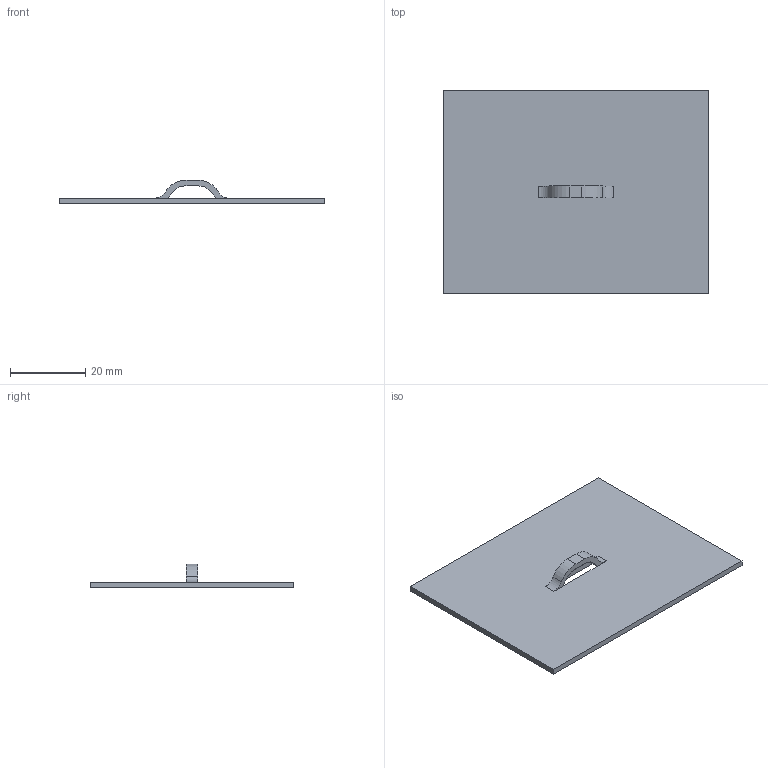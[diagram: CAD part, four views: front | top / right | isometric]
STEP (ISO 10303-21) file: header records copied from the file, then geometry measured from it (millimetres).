
FILE_DESCRIPTION(('PART XYZ REV A'),'1');
FILE_NAME('EF12','2012-11-29T18:52:47',('ERIC'),('TRIAX'),'Spatial Interop R21 SP3','Kubotek KeyCreator 2011 V10.5.1 (25051)','CHAZ');
FILE_SCHEMA(('CONFIG_CONTROL_DESIGN'));
Length unit declared in the file: inch
Products named in the file (1): 1
Bounding box: 70.5 x 53.97 x 6.3 mm (x, y, z)
Volume: 5815 mm3; surface area: 8111.9 mm2
Topology: 1 solids, 1 shells, 20 faces, 56 edges, 36 vertices
Faces by surface type: plane 12, cylinder 8
Entity records: 700 total; most frequent: DIRECTION 118, CARTESIAN_POINT 113, ORIENTED_EDGE 112, EDGE_CURVE 56, AXIS2_PLACEMENT_3D 41, VERTEX_POINT 36, LINE 36, VECTOR 36
